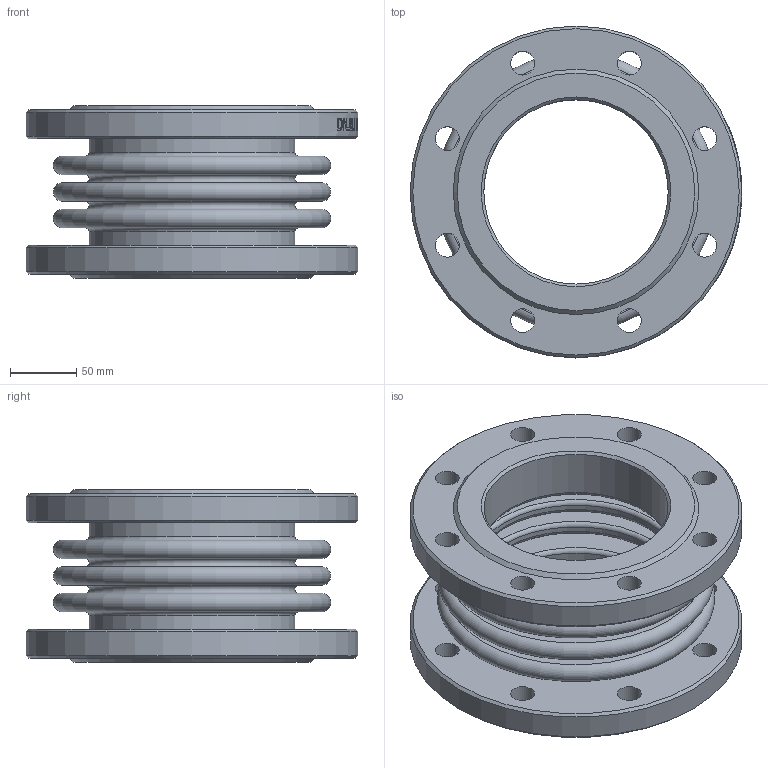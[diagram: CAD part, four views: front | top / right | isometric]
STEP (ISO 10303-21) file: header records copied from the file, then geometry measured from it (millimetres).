
FILE_DESCRIPTION(/* description */ ('D140-02117','CAx-IF Rec.Pracs.---Representation and Presentation of Product Manufacturing Information (PMI)---4.0---2014-10-13'),/* implementation_level */ '2;1');
FILE_NAME(/* name */ '',/* time_stamp */ '2026-04-13T23:52:17+03:00',/* author */ ('DN.RU'),/* organization */ ('DN.RU'),/* preprocessor_version */ 'ST-DEVELOPER v20',/* originating_system */ 'Autodesk Inventor 2025',/* authorisation */ '');
FILE_SCHEMA (('AP242_MANAGED_MODEL_BASED_3D_ENGINEERING_MIM_LF { 1 0 10303 442 1 1 4 }'));
Length unit declared in the file: millimetre
Products named in the file (1): CB-3234-F
Bounding box: 250 x 250 x 130 mm (x, y, z)
Volume: 1733974.5 mm3; surface area: 472219.4 mm2
Topology: 1 solids, 1 shells, 279 faces, 718 edges, 478 vertices
Faces by surface type: plane 126, bspline 84, cylinder 45, torus 16, cone 8
Full cylindrical faces by diameter (mm): 18 x16, 139 x2, 151 x2, 155 x2, 163 x2, 250 x2
Entity records: 11506 total; most frequent: CARTESIAN_POINT 4327, ORIENTED_EDGE 1436, DIRECTION 1242, EDGE_CURVE 718, VERTEX_POINT 478, AXIS2_PLACEMENT_3D 463, STYLED_ITEM 353, EDGE_LOOP 350
